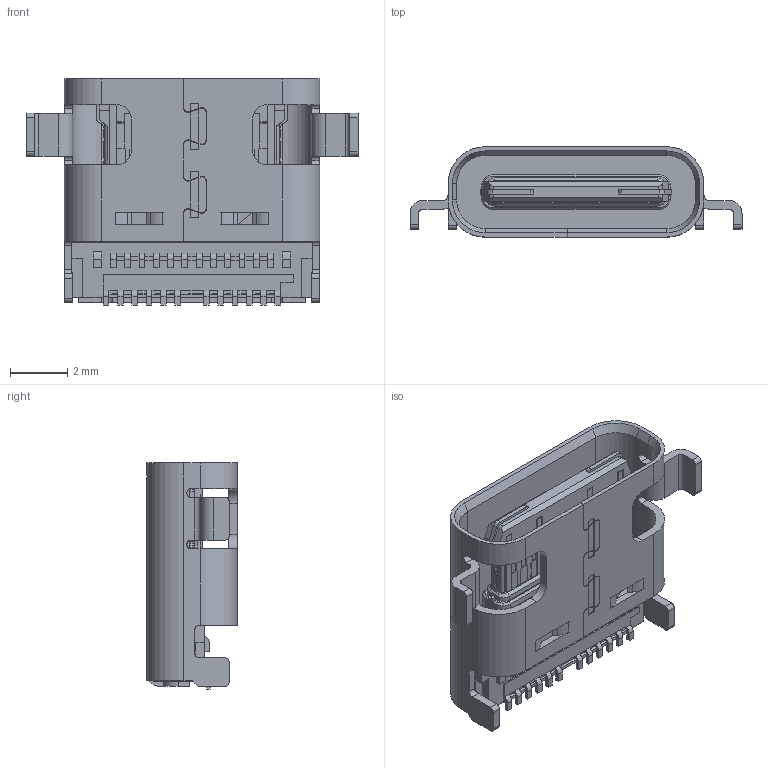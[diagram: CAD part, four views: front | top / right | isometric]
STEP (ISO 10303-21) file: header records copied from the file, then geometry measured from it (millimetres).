
FILE_DESCRIPTION(('STEP AP242'),'1');
FILE_NAME('1054550101.stp','2026-03-02T08:08:58',('TraceParts'),('TraceParts S.A.S.'),'Spatial InterOp 3D',' ',' ');
FILE_SCHEMA(('AP242_MANAGED_MODEL_BASED_3D_ENGINEERING_MIM_LF {1 0 10303 442 1 1 4}'));
Length unit declared in the file: millimetre
Products named in the file (1): 1
Bounding box: 11.6 x 3.16 x 7.9 mm (x, y, z)
Volume: 111.6 mm3; surface area: 406.3 mm2
Topology: 1 solids, 1 shells, 1066 faces, 3069 edges, 1995 vertices
Faces by surface type: plane 790, cylinder 264, cone 12
Entity records: 40863 total; most frequent: CARTESIAN_POINT 6206, ORIENTED_EDGE 6138, DIRECTION 5742, EDGE_CURVE 3069, LINE 2480, VECTOR 2480, VERTEX_POINT 1995, AXIS2_PLACEMENT_3D 1631
